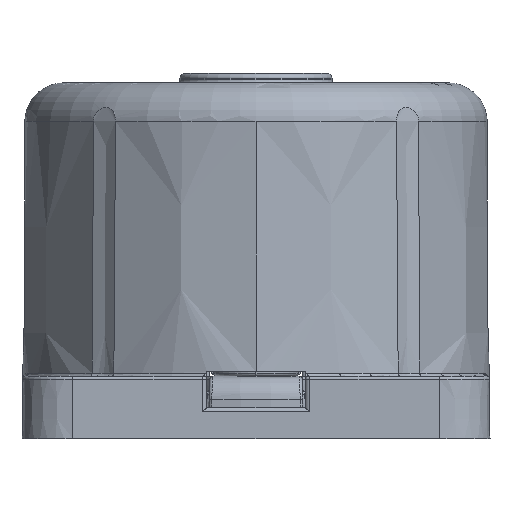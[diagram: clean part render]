
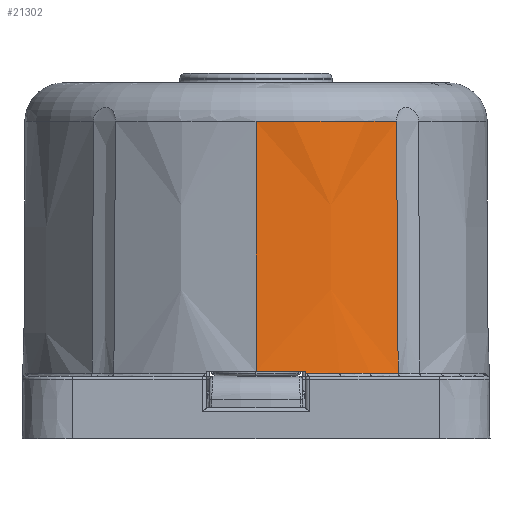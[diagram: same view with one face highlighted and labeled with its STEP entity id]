
A CAD part, front view. The second image highlights one B-rep face of the part: STEP entity #21302.
In plain terms, the highlighted conical face has half-angle 0.5 degrees and reference radius 14.964 mm.
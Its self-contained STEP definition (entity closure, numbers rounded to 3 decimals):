
#390 = EDGE_CURVE ( 'NONE', #19942, #11085, #21578, .T. ) ;
#733 = EDGE_LOOP ( 'NONE', ( #22888, #10027, #22602, #3777, #16425, #9414, #20975 ) ) ;
#1064 = CARTESIAN_POINT ( 'NONE',  ( -3.306, -15.602, -14.594 ) ) ;
#1672 = B_SPLINE_CURVE_WITH_KNOTS ( 'NONE', 3,
 ( #3012, #10236, #10310, #22704 ),
 .UNSPECIFIED., .F., .F.,
 ( 4, 4 ),
 ( 0., 1. ),
 .UNSPECIFIED. ) ;
#2115 = CARTESIAN_POINT ( 'NONE',  ( -3.15, -15.634, -14.628 ) ) ;
#2333 = CARTESIAN_POINT ( 'NONE',  ( -3.15, -15.589, -14.628 ) ) ;
#2951 = CARTESIAN_POINT ( 'NONE',  ( -3.15, -15.5, -14.627 ) ) ;
#3012 = CARTESIAN_POINT ( 'NONE',  ( -3.15, -15.634, -14.628 ) ) ;
#3379 = VERTEX_POINT ( 'NONE', #1064 ) ;
#3777 = ORIENTED_EDGE ( 'NONE', *, *, #390, .T. ) ;
#4280 = VERTEX_POINT ( 'NONE', #13323 ) ;
#4408 = CONICAL_SURFACE ( 'NONE', #13054, 14.964, 0.009 ) ;
#4666 = CARTESIAN_POINT ( 'NONE',  ( -9.049, -6.128, -11.813 ) ) ;
#4681 = DIRECTION ( 'NONE',  ( 0., -1., -0.009 ) ) ;
#4956 = EDGE_CURVE ( 'NONE', #3379, #4280, #18983, .T. ) ;
#5183 = AXIS2_PLACEMENT_3D ( 'NONE', #7032, #19436, #5412 ) ;
#5412 = DIRECTION ( 'NONE',  ( 0., 0., -1. ) ) ;
#6325 = CARTESIAN_POINT ( 'NONE',  ( 0., 0.522, 0. ) ) ;
#7010 = CARTESIAN_POINT ( 'NONE',  ( 0., -15.602, 0. ) ) ;
#7032 = CARTESIAN_POINT ( 'NONE',  ( 0., -15.5, 0. ) ) ;
#7082 = DIRECTION ( 'NONE',  ( 0., 0., -1. ) ) ;
#7318 = CARTESIAN_POINT ( 'NONE',  ( 0., -15.731, 0. ) ) ;
#7799 = DIRECTION ( 'NONE',  ( 0., 0., -1. ) ) ;
#8102 = LINE ( 'NONE', #22217, #20312 ) ;
#8262 = CARTESIAN_POINT ( 'NONE',  ( -9.006, 0.522, -11.773 ) ) ;
#8409 = CARTESIAN_POINT ( 'NONE',  ( -9.111, -15.602, -11.869 ) ) ;
#8799 = DIRECTION ( 'NONE',  ( 0., 0., -1. ) ) ;
#9319 = CARTESIAN_POINT ( 'NONE',  ( -3.15, -15.634, -14.628 ) ) ;
#9414 = ORIENTED_EDGE ( 'NONE', *, *, #4956, .T. ) ;
#9560 = CARTESIAN_POINT ( 'NONE',  ( -3.15, -15.545, -14.628 ) ) ;
#10027 = ORIENTED_EDGE ( 'NONE', *, *, #11829, .T. ) ;
#10119 = CARTESIAN_POINT ( 'NONE',  ( -9.071, -9.452, -11.833 ) ) ;
#10154 = CARTESIAN_POINT ( 'NONE',  ( -9.006, 0.522, -11.773 ) ) ;
#10203 = EDGE_CURVE ( 'NONE', #11908, #19942, #19974, .T. ) ;
#10236 = CARTESIAN_POINT ( 'NONE',  ( -3.2, -15.613, -14.617 ) ) ;
#10310 = CARTESIAN_POINT ( 'NONE',  ( -3.252, -15.602, -14.606 ) ) ;
#11085 = VERTEX_POINT ( 'NONE', #9319 ) ;
#11829 = EDGE_CURVE ( 'NONE', #21073, #11908, #8102, .T. ) ;
#11908 = VERTEX_POINT ( 'NONE', #22588 ) ;
#12113 = CIRCLE ( 'NONE', #22596, 14.823 ) ;
#12233 = B_SPLINE_CURVE_WITH_KNOTS ( 'NONE', 3,
 ( #8409, #20809, #22500, #10119, #4666, #13460, #8262 ),
 .UNSPECIFIED., .F., .F.,
 ( 4, 3, 4 ),
 ( 0., 0.006, 0.016 ),
 .UNSPECIFIED. ) ;
#13054 = AXIS2_PLACEMENT_3D ( 'NONE', #7318, #21421, #7082 ) ;
#13323 = CARTESIAN_POINT ( 'NONE',  ( -9.111, -15.602, -11.869 ) ) ;
#13460 = CARTESIAN_POINT ( 'NONE',  ( -9.027, -2.803, -11.793 ) ) ;
#14439 = FACE_OUTER_BOUND ( 'NONE', #733, .T. ) ;
#15121 = AXIS2_PLACEMENT_3D ( 'NONE', #7010, #17965, #8799 ) ;
#15663 = VERTEX_POINT ( 'NONE', #10154 ) ;
#16425 = ORIENTED_EDGE ( 'NONE', *, *, #19469, .T. ) ;
#17965 = DIRECTION ( 'NONE',  ( 0., 1., 0. ) ) ;
#18194 = CARTESIAN_POINT ( 'NONE',  ( -3.15, -15.5, -14.627 ) ) ;
#18714 = DIRECTION ( 'NONE',  ( 0., -1., 0. ) ) ;
#18790 = CARTESIAN_POINT ( 'NONE',  ( 0., 0.522, -14.823 ) ) ;
#18983 = CIRCLE ( 'NONE', #15121, 14.963 ) ;
#19436 = DIRECTION ( 'NONE',  ( 0., 1., 0. ) ) ;
#19469 = EDGE_CURVE ( 'NONE', #11085, #3379, #1672, .T. ) ;
#19942 = VERTEX_POINT ( 'NONE', #2951 ) ;
#19974 = CIRCLE ( 'NONE', #5183, 14.962 ) ;
#20312 = VECTOR ( 'NONE', #4681, 1000. ) ;
#20809 = CARTESIAN_POINT ( 'NONE',  ( -9.098, -13.552, -11.857 ) ) ;
#20907 = EDGE_CURVE ( 'NONE', #15663, #21073, #12113, .T. ) ;
#20975 = ORIENTED_EDGE ( 'NONE', *, *, #21071, .T. ) ;
#21071 = EDGE_CURVE ( 'NONE', #4280, #15663, #12233, .T. ) ;
#21073 = VERTEX_POINT ( 'NONE', #18790 ) ;
#21302 = ADVANCED_FACE ( 'NONE', ( #14439 ), #4408, .T. ) ;
#21421 = DIRECTION ( 'NONE',  ( 0., -1., 0. ) ) ;
#21578 = B_SPLINE_CURVE_WITH_KNOTS ( 'NONE', 3,
 ( #18194, #9560, #2333, #2115 ),
 .UNSPECIFIED., .F., .F.,
 ( 4, 4 ),
 ( 0., 0. ),
 .UNSPECIFIED. ) ;
#22217 = CARTESIAN_POINT ( 'NONE',  ( 0., -15.731, -14.964 ) ) ;
#22500 = CARTESIAN_POINT ( 'NONE',  ( -9.084, -11.502, -11.845 ) ) ;
#22588 = CARTESIAN_POINT ( 'NONE',  ( 0., -15.5, -14.962 ) ) ;
#22596 = AXIS2_PLACEMENT_3D ( 'NONE', #6325, #18714, #7799 ) ;
#22602 = ORIENTED_EDGE ( 'NONE', *, *, #10203, .T. ) ;
#22704 = CARTESIAN_POINT ( 'NONE',  ( -3.306, -15.602, -14.594 ) ) ;
#22888 = ORIENTED_EDGE ( 'NONE', *, *, #20907, .T. ) ;
